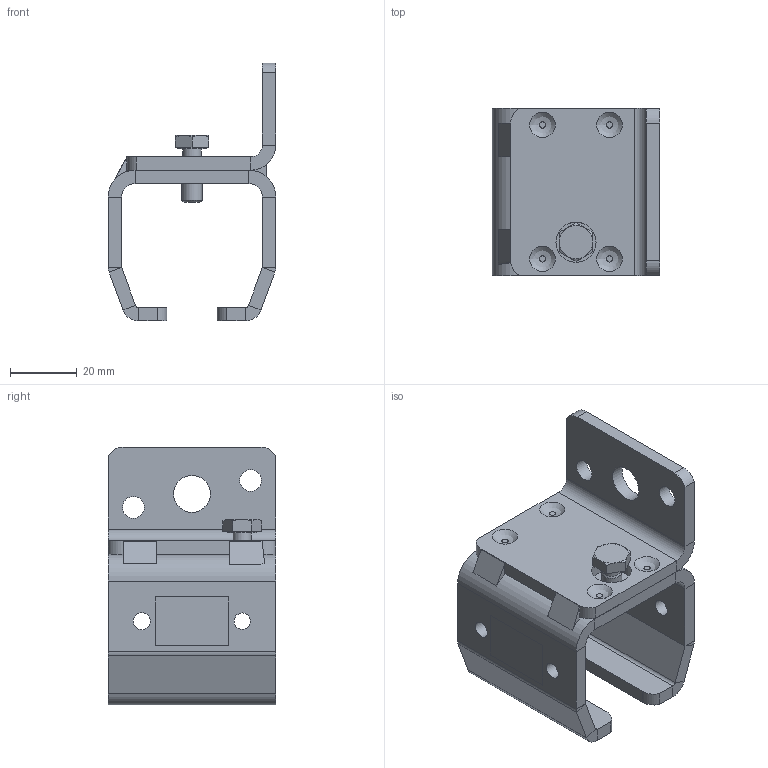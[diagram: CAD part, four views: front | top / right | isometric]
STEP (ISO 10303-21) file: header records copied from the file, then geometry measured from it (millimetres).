
FILE_DESCRIPTION(/* description */ ('Wandbefestigung Nr.1'),/* implementation_level */ '2;1');
FILE_NAME(/* name */ 'Q:\sge-ma\Produktmanagement-STB\STB\Workspace\stp\010335610.stp',/* time_stamp */ '2015-03-26T09:25:56+01:00',/* author */ ('avschreier'),/* organization */ (''),/* preprocessor_version */ 'ST-DEVELOPER v15.6',/* originating_system */ 'Autodesk Inventor 2015',/* authorisation */ '');
FILE_SCHEMA (('CONFIG_CONTROL_DESIGN'));
Length unit declared in the file: millimetre
Products named in the file (5): 010335610_Schweißnähte; 337000254; 335140010; DIN_EN_ISO_4017-M6x16_en; 010335610
Bounding box: 50 x 50 x 77 mm (x, y, z)
Volume: 42292.5 mm3; surface area: 25289 mm2
Topology: 7 solids, 7 shells, 156 faces, 337 edges, 207 vertices
Faces by surface type: plane 97, cylinder 42, bspline 9, cone 8
Full cylindrical faces by diameter (mm): 4.917 x3, 5 x3, 5.459 x1, 6 x1, 6.5 x2, 8.7 x1, 11 x1, 12 x1
Entity records: 4586 total; most frequent: CARTESIAN_POINT 1130, DIRECTION 718, ORIENTED_EDGE 638, EDGE_CURVE 319, AXIS2_PLACEMENT_3D 270, VERTEX_POINT 204, EDGE_LOOP 203, LINE 178
